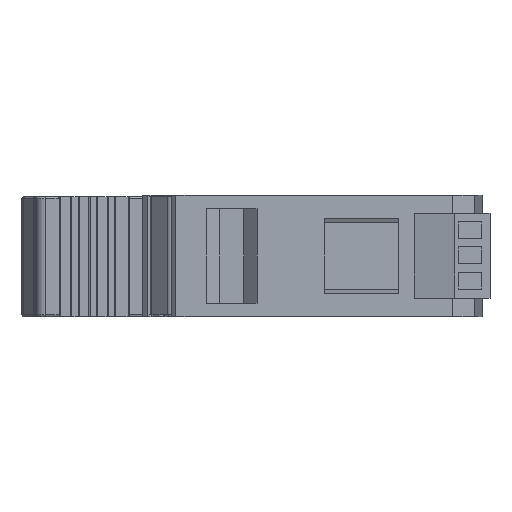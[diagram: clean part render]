
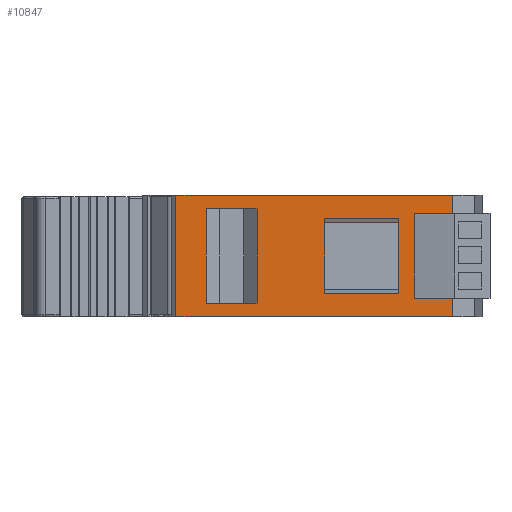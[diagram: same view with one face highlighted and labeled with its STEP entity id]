
A CAD part, left-side view. The second image highlights one B-rep face of the part: STEP entity #10847.
In plain terms, the highlighted planar face has unit normal (-1, 0, 0).
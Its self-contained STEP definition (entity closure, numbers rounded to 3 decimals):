
#895 = VERTEX_POINT ( 'NONE', #7486 ) ;
#1000 = VERTEX_POINT ( 'NONE', #5571 ) ;
#1093 = CARTESIAN_POINT ( 'NONE',  ( 0., 5.5, 3.5 ) ) ;
#1836 = CARTESIAN_POINT ( 'NONE',  ( 0., 26.5, 2. ) ) ;
#1966 = CARTESIAN_POINT ( 'NONE',  ( 0., 38.5, 0. ) ) ;
#2142 = ORIENTED_EDGE ( 'NONE', *, *, #3723, .T. ) ;
#2245 = ORIENTED_EDGE ( 'NONE', *, *, #3856, .F. ) ;
#2310 = ORIENTED_EDGE ( 'NONE', *, *, #4077, .F. ) ;
#2344 = ORIENTED_EDGE ( 'NONE', *, *, #3496, .T. ) ;
#2432 = ORIENTED_EDGE ( 'NONE', *, *, #16084, .T. ) ;
#2482 = ORIENTED_EDGE ( 'NONE', *, *, #3093, .T. ) ;
#2501 = VERTEX_POINT ( 'NONE', #5112 ) ;
#2517 = ORIENTED_EDGE ( 'NONE', *, *, #4289, .F. ) ;
#2523 = ORIENTED_EDGE ( 'NONE', *, *, #2872, .T. ) ;
#2632 = ORIENTED_EDGE ( 'NONE', *, *, #4255, .T. ) ;
#2674 = ORIENTED_EDGE ( 'NONE', *, *, #4281, .T. ) ;
#2709 = ORIENTED_EDGE ( 'NONE', *, *, #3827, .T. ) ;
#2862 = ORIENTED_EDGE ( 'NONE', *, *, #4046, .T. ) ;
#2872 = EDGE_CURVE ( 'NONE', #5384, #6496, #12057, .T. ) ;
#2930 = CARTESIAN_POINT ( 'NONE',  ( 0., 21.75, 18. ) ) ;
#2947 = ORIENTED_EDGE ( 'NONE', *, *, #3428, .T. ) ;
#2962 = ORIENTED_EDGE ( 'NONE', *, *, #3477, .T. ) ;
#3033 = ORIENTED_EDGE ( 'NONE', *, *, #3277, .T. ) ;
#3091 = ORIENTED_EDGE ( 'NONE', *, *, #3397, .T. ) ;
#3093 = EDGE_CURVE ( 'NONE', #895, #16697, #8437, .T. ) ;
#3128 = DIRECTION ( 'NONE',  ( 0., 1., 0. ) ) ;
#3277 = EDGE_CURVE ( 'NONE', #10023, #2501, #9774, .T. ) ;
#3397 = EDGE_CURVE ( 'NONE', #2501, #7587, #8911, .T. ) ;
#3428 = EDGE_CURVE ( 'NONE', #7587, #8196, #9072, .T. ) ;
#3477 = EDGE_CURVE ( 'NONE', #8196, #10023, #9012, .T. ) ;
#3496 = EDGE_CURVE ( 'NONE', #5803, #16620, #9026, .T. ) ;
#3723 = EDGE_CURVE ( 'NONE', #6496, #1000, #10129, .T. ) ;
#3827 = EDGE_CURVE ( 'NONE', #16540, #8124, #11382, .T. ) ;
#3856 = EDGE_CURVE ( 'NONE', #11204, #1000, #12329, .T. ) ;
#4046 = EDGE_CURVE ( 'NONE', #8124, #16907, #15350, .T. ) ;
#4077 = EDGE_CURVE ( 'NONE', #5803, #11204, #15970, .T. ) ;
#4255 = EDGE_CURVE ( 'NONE', #16907, #5553, #16435, .T. ) ;
#4281 = EDGE_CURVE ( 'NONE', #5553, #16540, #15226, .T. ) ;
#4289 = EDGE_CURVE ( 'NONE', #5384, #16697, #16420, .T. ) ;
#4648 = CARTESIAN_POINT ( 'NONE',  ( 0., 21.75, 0. ) ) ;
#4922 = DIRECTION ( 'NONE',  ( -1., 0., 0. ) ) ;
#5112 = CARTESIAN_POINT ( 'NONE',  ( 0., 5.5, 14.5 ) ) ;
#5384 = VERTEX_POINT ( 'NONE', #9193 ) ;
#5553 = VERTEX_POINT ( 'NONE', #16538 ) ;
#5571 = CARTESIAN_POINT ( 'NONE',  ( 0., 1.4, 2.75 ) ) ;
#5803 = VERTEX_POINT ( 'NONE', #12775 ) ;
#6314 = CARTESIAN_POINT ( 'NONE',  ( 0., 16.5, 3.5 ) ) ;
#6496 = VERTEX_POINT ( 'NONE', #9352 ) ;
#7240 = CARTESIAN_POINT ( 'NONE',  ( 0., 16.5, 14.5 ) ) ;
#7486 = CARTESIAN_POINT ( 'NONE',  ( 0., 38.5, 18. ) ) ;
#7587 = VERTEX_POINT ( 'NONE', #1093 ) ;
#7680 = CARTESIAN_POINT ( 'NONE',  ( 0., -2.5, 0. ) ) ;
#7795 = DIRECTION ( 'NONE',  ( 0., 0., 1. ) ) ;
#8124 = VERTEX_POINT ( 'NONE', #12526 ) ;
#8196 = VERTEX_POINT ( 'NONE', #6314 ) ;
#8352 = VECTOR ( 'NONE', #7795, 1000. ) ;
#8417 = DIRECTION ( 'NONE',  ( 0., 0., -1. ) ) ;
#8437 = LINE ( 'NONE', #16366, #8472 ) ;
#8472 = VECTOR ( 'NONE', #16487, 1000. ) ;
#8542 = CARTESIAN_POINT ( 'NONE',  ( 0., 5.5, 0. ) ) ;
#8574 = CARTESIAN_POINT ( 'NONE',  ( 0., 34., 16. ) ) ;
#8676 = CARTESIAN_POINT ( 'NONE',  ( 0., 21.75, 3.5 ) ) ;
#8731 = DIRECTION ( 'NONE',  ( 0., 1., 0. ) ) ;
#8754 = CARTESIAN_POINT ( 'NONE',  ( 0., -2.5, 0. ) ) ;
#8867 = CARTESIAN_POINT ( 'NONE',  ( 0., 16.5, 0. ) ) ;
#8911 = LINE ( 'NONE', #8542, #9061 ) ;
#8922 = DIRECTION ( 'NONE',  ( 0., 0., 1. ) ) ;
#8969 = VECTOR ( 'NONE', #8731, 1000. ) ;
#9009 = DIRECTION ( 'NONE',  ( 0., 0., 1. ) ) ;
#9012 = LINE ( 'NONE', #8867, #9105 ) ;
#9026 = LINE ( 'NONE', #8754, #10777 ) ;
#9061 = VECTOR ( 'NONE', #8417, 1000. ) ;
#9072 = LINE ( 'NONE', #8676, #8969 ) ;
#9105 = VECTOR ( 'NONE', #8922, 1000. ) ;
#9193 = CARTESIAN_POINT ( 'NONE',  ( 0., -2.5, 0. ) ) ;
#9352 = CARTESIAN_POINT ( 'NONE',  ( 0., -2.5, 2.75 ) ) ;
#9774 = LINE ( 'NONE', #10285, #11630 ) ;
#10023 = VERTEX_POINT ( 'NONE', #7240 ) ;
#10129 = LINE ( 'NONE', #11029, #12711 ) ;
#10217 = FACE_OUTER_BOUND ( 'NONE', #14047, .T. ) ;
#10285 = CARTESIAN_POINT ( 'NONE',  ( 0., 21.75, 14.5 ) ) ;
#10446 = CARTESIAN_POINT ( 'NONE',  ( 0., 1.4, 15.3 ) ) ;
#10613 = CARTESIAN_POINT ( 'NONE',  ( 0., 1.4, 11.35 ) ) ;
#10627 = DIRECTION ( 'NONE',  ( 0., 0., -1. ) ) ;
#10704 = DIRECTION ( 'NONE',  ( 0., -1., 0. ) ) ;
#10777 = VECTOR ( 'NONE', #9009, 1000. ) ;
#10792 = CARTESIAN_POINT ( 'NONE',  ( 0., 21.75, 16. ) ) ;
#10847 = ADVANCED_FACE ( 'NONE', ( #10217, #13455, #13587 ), #11470, .T. ) ;
#10923 = DIRECTION ( 'NONE',  ( 0., 1., 0. ) ) ;
#10943 = VECTOR ( 'NONE', #10704, 1000. ) ;
#11029 = CARTESIAN_POINT ( 'NONE',  ( 0., 21.75, 2.75 ) ) ;
#11128 = CARTESIAN_POINT ( 'NONE',  ( 0., -2.5, 18. ) ) ;
#11204 = VERTEX_POINT ( 'NONE', #10446 ) ;
#11382 = LINE ( 'NONE', #10792, #10943 ) ;
#11470 = PLANE ( 'NONE',  #14172 ) ;
#11630 = VECTOR ( 'NONE', #16283, 1000. ) ;
#11775 = VECTOR ( 'NONE', #3128, 1000. ) ;
#11931 = LINE ( 'NONE', #2930, #11775 ) ;
#11996 = VECTOR ( 'NONE', #10627, 1000. ) ;
#12057 = LINE ( 'NONE', #7680, #8352 ) ;
#12135 = DIRECTION ( 'NONE',  ( 0., 1., 0. ) ) ;
#12165 = CARTESIAN_POINT ( 'NONE',  ( 0., 21.75, 2. ) ) ;
#12329 = LINE ( 'NONE', #10613, #11996 ) ;
#12481 = DIRECTION ( 'NONE',  ( 0., 0., 1. ) ) ;
#12526 = CARTESIAN_POINT ( 'NONE',  ( 0., 26.5, 16. ) ) ;
#12533 = CARTESIAN_POINT ( 'NONE',  ( 0., 34., 0. ) ) ;
#12589 = CARTESIAN_POINT ( 'NONE',  ( 0., 21.75, 0. ) ) ;
#12647 = DIRECTION ( 'NONE',  ( 0., 1., 0. ) ) ;
#12711 = VECTOR ( 'NONE', #10923, 1000. ) ;
#12775 = CARTESIAN_POINT ( 'NONE',  ( 0., -2.5, 15.3 ) ) ;
#13185 = DIRECTION ( 'NONE',  ( 0., 0., -1. ) ) ;
#13206 = DIRECTION ( 'NONE',  ( 0., 1., 0. ) ) ;
#13455 = FACE_BOUND ( 'NONE', #13903, .T. ) ;
#13483 = CARTESIAN_POINT ( 'NONE',  ( 0., 21.75, 15.3 ) ) ;
#13587 = FACE_BOUND ( 'NONE', #13653, .T. ) ;
#13653 = EDGE_LOOP ( 'NONE', ( #2947, #2962, #3033, #3091 ) ) ;
#13903 = EDGE_LOOP ( 'NONE', ( #2632, #2674, #2709, #2862 ) ) ;
#13924 = CARTESIAN_POINT ( 'NONE',  ( 0., 26.5, 0. ) ) ;
#14047 = EDGE_LOOP ( 'NONE', ( #2142, #2245, #2310, #2344, #2432, #2482, #2517, #2523 ) ) ;
#14172 = AXIS2_PLACEMENT_3D ( 'NONE', #4648, #4922, #14690 ) ;
#14690 = DIRECTION ( 'NONE',  ( 0., 0., 1. ) ) ;
#15226 = LINE ( 'NONE', #12533, #16440 ) ;
#15350 = LINE ( 'NONE', #13924, #15665 ) ;
#15665 = VECTOR ( 'NONE', #13185, 1000. ) ;
#15682 = VECTOR ( 'NONE', #12647, 1000. ) ;
#15970 = LINE ( 'NONE', #13483, #16517 ) ;
#16084 = EDGE_CURVE ( 'NONE', #16620, #895, #11931, .T. ) ;
#16283 = DIRECTION ( 'NONE',  ( 0., -1., 0. ) ) ;
#16315 = VECTOR ( 'NONE', #12135, 1000. ) ;
#16366 = CARTESIAN_POINT ( 'NONE',  ( 0., 38.5, 0. ) ) ;
#16420 = LINE ( 'NONE', #12589, #16315 ) ;
#16435 = LINE ( 'NONE', #12165, #15682 ) ;
#16440 = VECTOR ( 'NONE', #12481, 1000. ) ;
#16487 = DIRECTION ( 'NONE',  ( 0., 0., -1. ) ) ;
#16517 = VECTOR ( 'NONE', #13206, 1000. ) ;
#16538 = CARTESIAN_POINT ( 'NONE',  ( 0., 34., 2. ) ) ;
#16540 = VERTEX_POINT ( 'NONE', #8574 ) ;
#16620 = VERTEX_POINT ( 'NONE', #11128 ) ;
#16697 = VERTEX_POINT ( 'NONE', #1966 ) ;
#16907 = VERTEX_POINT ( 'NONE', #1836 ) ;
